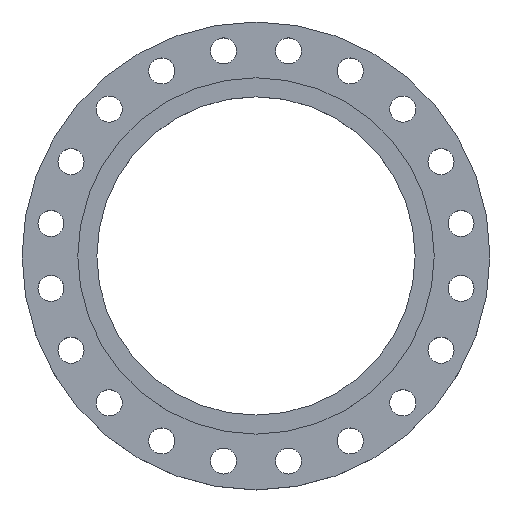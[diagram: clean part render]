
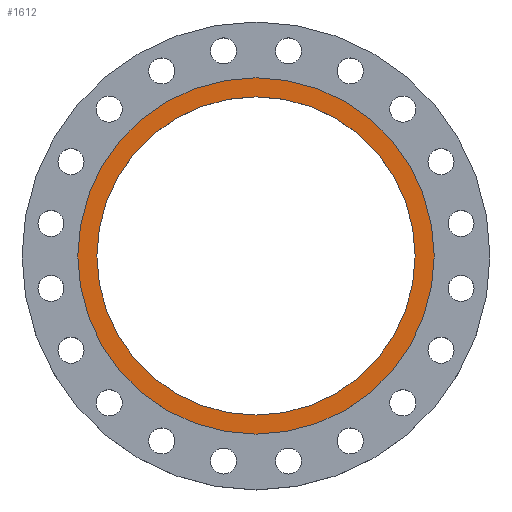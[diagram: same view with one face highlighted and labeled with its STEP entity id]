
A CAD part, top view. The second image highlights one B-rep face of the part: STEP entity #1612.
In plain terms, the highlighted planar face has unit normal (0, 0, 1).
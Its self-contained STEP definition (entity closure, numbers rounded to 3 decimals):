
#81 = CARTESIAN_POINT ( 'NONE',  ( 287.5, 0., 0. ) ) ;
#181 = CARTESIAN_POINT ( 'NONE',  ( -256.75, 0., 0. ) ) ;
#185 = CARTESIAN_POINT ( 'NONE',  ( 0., 0., 0. ) ) ;
#303 = DIRECTION ( 'NONE',  ( -1., 0., 0. ) ) ;
#304 = DIRECTION ( 'NONE',  ( 0., 0., -1. ) ) ;
#305 = CARTESIAN_POINT ( 'NONE',  ( 0., 0., 0. ) ) ;
#325 = DIRECTION ( 'NONE',  ( -1., 0., 0. ) ) ;
#347 = EDGE_CURVE ( 'NONE', #878, #535, #593, .T. ) ;
#467 = DIRECTION ( 'NONE',  ( 0., 0., -1. ) ) ;
#475 = DIRECTION ( 'NONE',  ( 1., 0., 0. ) ) ;
#477 = EDGE_LOOP ( 'NONE', ( #1301, #1304 ) ) ;
#535 = VERTEX_POINT ( 'NONE', #181 ) ;
#593 = CIRCLE ( 'NONE', #667, 256.75 ) ;
#611 = DIRECTION ( 'NONE',  ( 0., 0., -1. ) ) ;
#630 = EDGE_LOOP ( 'NONE', ( #1298, #1300 ) ) ;
#667 = AXIS2_PLACEMENT_3D ( 'NONE', #305, #304, #303 ) ;
#700 = PLANE ( 'NONE',  #1711 ) ;
#811 = EDGE_CURVE ( 'NONE', #1443, #951, #1474, .T. ) ;
#878 = VERTEX_POINT ( 'NONE', #1001 ) ;
#926 = CARTESIAN_POINT ( 'NONE',  ( 0., 0., 0. ) ) ;
#951 = VERTEX_POINT ( 'NONE', #81 ) ;
#1001 = CARTESIAN_POINT ( 'NONE',  ( 256.75, 0., 0. ) ) ;
#1083 = EDGE_CURVE ( 'NONE', #535, #878, #1620, .T. ) ;
#1115 = EDGE_CURVE ( 'NONE', #951, #1443, #1662, .T. ) ;
#1166 = DIRECTION ( 'NONE',  ( -1., 0., 0. ) ) ;
#1214 = CARTESIAN_POINT ( 'NONE',  ( 0., 0., 0. ) ) ;
#1298 = ORIENTED_EDGE ( 'NONE', *, *, #1083, .T. ) ;
#1300 = ORIENTED_EDGE ( 'NONE', *, *, #347, .T. ) ;
#1301 = ORIENTED_EDGE ( 'NONE', *, *, #811, .F. ) ;
#1304 = ORIENTED_EDGE ( 'NONE', *, *, #1115, .F. ) ;
#1371 = FACE_BOUND ( 'NONE', #630, .T. ) ;
#1443 = VERTEX_POINT ( 'NONE', #1584 ) ;
#1450 = DIRECTION ( 'NONE',  ( 0., 0., -1. ) ) ;
#1474 = CIRCLE ( 'NONE', #1475, 287.5 ) ;
#1475 = AXIS2_PLACEMENT_3D ( 'NONE', #185, #467, #325 ) ;
#1551 = AXIS2_PLACEMENT_3D ( 'NONE', #1692, #611, #1166 ) ;
#1580 = AXIS2_PLACEMENT_3D ( 'NONE', #926, #1450, #1756 ) ;
#1584 = CARTESIAN_POINT ( 'NONE',  ( -287.5, 0., 0. ) ) ;
#1612 = ADVANCED_FACE ( 'NONE', ( #1371, #1718 ), #700, .T. ) ;
#1620 = CIRCLE ( 'NONE', #1580, 256.75 ) ;
#1649 = DIRECTION ( 'NONE',  ( 0., 0., 1. ) ) ;
#1662 = CIRCLE ( 'NONE', #1551, 287.5 ) ;
#1692 = CARTESIAN_POINT ( 'NONE',  ( 0., 0., 0. ) ) ;
#1711 = AXIS2_PLACEMENT_3D ( 'NONE', #1214, #1649, #475 ) ;
#1718 = FACE_OUTER_BOUND ( 'NONE', #477, .T. ) ;
#1756 = DIRECTION ( 'NONE',  ( -1., 0., 0. ) ) ;
